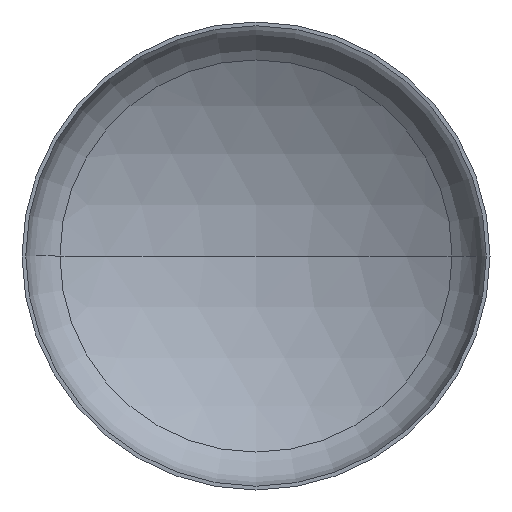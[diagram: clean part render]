
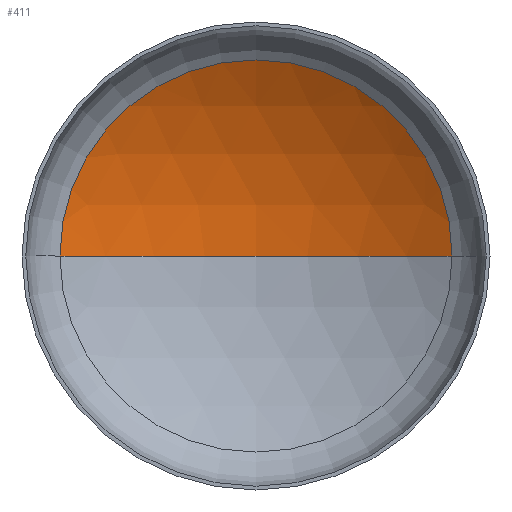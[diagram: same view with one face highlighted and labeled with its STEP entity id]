
A CAD part, front view. The second image highlights one B-rep face of the part: STEP entity #411.
In plain terms, the highlighted spherical face has radius 1280 mm.
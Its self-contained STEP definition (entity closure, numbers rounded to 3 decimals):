
#5 = AXIS2_PLACEMENT_3D ( 'NONE', #127, #132, #80 ) ;
#33 = EDGE_LOOP ( 'NONE', ( #131, #110, #40 ) ) ;
#36 = CARTESIAN_POINT ( 'NONE',  ( 0., -841.737, 0. ) ) ;
#38 = FACE_OUTER_BOUND ( 'NONE', #33, .T. ) ;
#40 = ORIENTED_EDGE ( 'NONE', *, *, #356, .T. ) ;
#44 = AXIS2_PLACEMENT_3D ( 'NONE', #191, #280, #103 ) ;
#80 = DIRECTION ( 'NONE',  ( 1., 0., 0. ) ) ;
#84 = VERTEX_POINT ( 'NONE', #287 ) ;
#101 = DIRECTION ( 'NONE',  ( 1., 0., 0. ) ) ;
#103 = DIRECTION ( 'NONE',  ( -1., 0., 0. ) ) ;
#110 = ORIENTED_EDGE ( 'NONE', *, *, #385, .T. ) ;
#120 = AXIS2_PLACEMENT_3D ( 'NONE', #36, #278, #101 ) ;
#125 = VERTEX_POINT ( 'NONE', #288 ) ;
#127 = CARTESIAN_POINT ( 'NONE',  ( 0., 248.72, 0. ) ) ;
#131 = ORIENTED_EDGE ( 'NONE', *, *, #394, .F. ) ;
#132 = DIRECTION ( 'NONE',  ( 0., -1., 0. ) ) ;
#166 = VERTEX_POINT ( 'NONE', #203 ) ;
#175 = CIRCLE ( 'NONE', #44, 1280. ) ;
#181 = AXIS2_PLACEMENT_3D ( 'NONE', #341, #306, #305 ) ;
#191 = CARTESIAN_POINT ( 'NONE',  ( 0., -841.737, 0. ) ) ;
#203 = CARTESIAN_POINT ( 'NONE',  ( 670.3, 248.72, 0. ) ) ;
#239 = CIRCLE ( 'NONE', #120, 1280. ) ;
#278 = DIRECTION ( 'NONE',  ( 0., 0., 1. ) ) ;
#280 = DIRECTION ( 'NONE',  ( 0., 0., -1. ) ) ;
#287 = CARTESIAN_POINT ( 'NONE',  ( -670.3, 248.72, 0. ) ) ;
#288 = CARTESIAN_POINT ( 'NONE',  ( 0., 438.263, 0. ) ) ;
#305 = DIRECTION ( 'NONE',  ( -1., 0., 0. ) ) ;
#306 = DIRECTION ( 'NONE',  ( 0., 0., -1. ) ) ;
#315 = CIRCLE ( 'NONE', #5, 670.3 ) ;
#341 = CARTESIAN_POINT ( 'NONE',  ( 0., -841.737, 0. ) ) ;
#356 = EDGE_CURVE ( 'NONE', #166, #84, #315, .T. ) ;
#371 = SPHERICAL_SURFACE ( 'NONE', #181, 1280. ) ;
#385 = EDGE_CURVE ( 'NONE', #125, #166, #175, .T. ) ;
#394 = EDGE_CURVE ( 'NONE', #125, #84, #239, .T. ) ;
#411 = ADVANCED_FACE ( 'NONE', ( #38 ), #371, .F. ) ;
